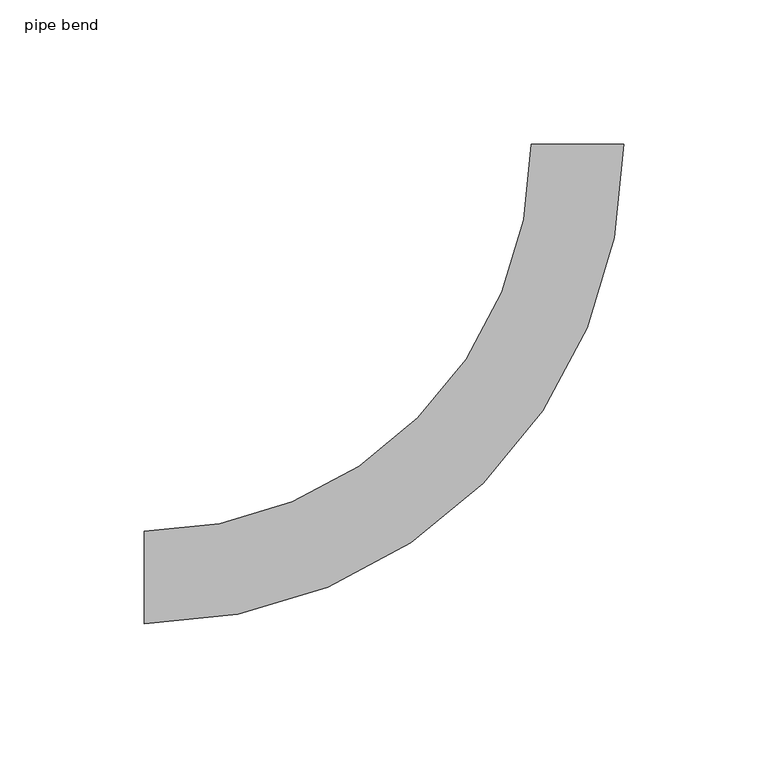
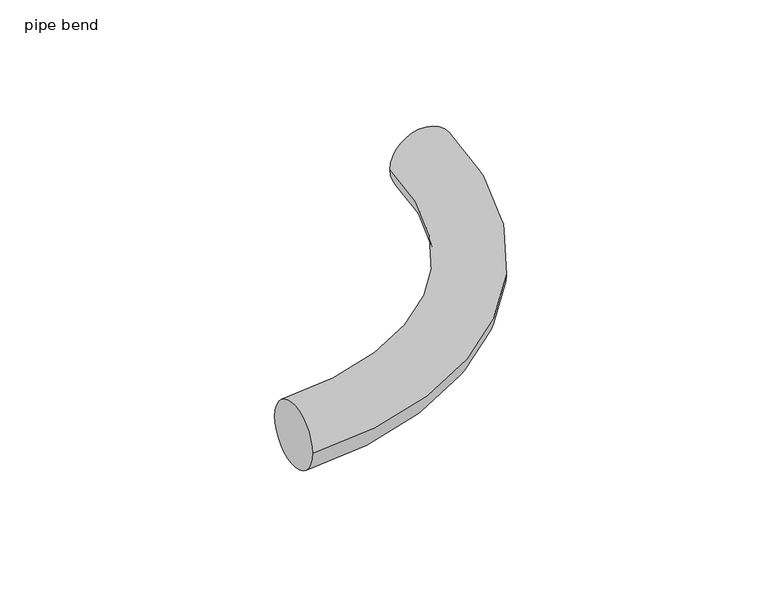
"""IFC4 building model written with IfcOpenShell, lengths in millimetres: pipe fitting geometry, pipe bend : PE-RT EVOH."""

from ifc_helpers import new_model, si_unit, point, frame, origin, place, context, project, spatial, circle_curve, ellipse_curve, trimmed, source, transform, mapped, element, save
from ifc_brep_helpers import plane_surface, revolved_surface, advanced_brep


def pipe_bend_8844c0c0(model_context):
    return source(origin(), model_context, "Body", "AdvancedBrep", [
        advanced_brep(
        [(-150.0, -16.0, 0.0), (-150.0, 16.0, 0.0), (16.0, 150.0, 0.0), (-16.0, 150.0, 0.0)],
        [
            (0, 1, circle_curve(frame((-150.0, 0.0, 0.0), z_axis=(-1.0, 0.0, 0.0), x_axis=(0.0, 1.0, 0.0)), 16.0)),
            (1, 0, circle_curve(frame((-150.0, 0.0, 0.0), z_axis=(-1.0, 0.0, 0.0), x_axis=(0.0, 1.0, 0.0)), 16.0)),
            (2, 3, circle_curve(frame((0.0, 150.0, 0.0), z_axis=(0.0, 1.0, 0.0), x_axis=(-1.0, 0.0, 0.0)), 16.0)),
            (3, 2, circle_curve(frame((0.0, 150.0, 0.0), z_axis=(0.0, 1.0, 0.0), x_axis=(-1.0, 0.0, 0.0)), 16.0)),
            (3, 1, circle_curve(frame((-150.0, 150.0, 0.0), z_axis=(0.0, 0.0, -1.0), x_axis=(0.0, -1.0, 0.0)), 134.0)),
            (0, 2, circle_curve(frame((-150.0, 150.0, 0.0), z_axis=(0.0, 0.0, 1.0), x_axis=(0.0, -1.0, 0.0)), 166.0)),
        ],
        [
            plane_surface(frame((-150.0, 0.0, 0.0), z_axis=(-1.0, 0.0, 0.0), x_axis=(0.0, 0.0, 1.0))),
            plane_surface(frame((0.0, 150.0, 0.0), z_axis=(0.0, 1.0, 0.0), x_axis=(0.0, 0.0, 1.0))),
            revolved_surface(trimmed(ellipse_curve(frame((-150.0, 0.0, 0.0), z_axis=(-1.0, 0.0, 0.0), x_axis=(0.0, 1.0, 0.0)), 16.0, 16.0), [point((-150.0, -16.0, 0.0))], [point((-150.0, 16.0, 0.0))], True, "CARTESIAN"), (-150.0, 150.0, 0.0), (0.0, 0.0, 1.0)),
            revolved_surface(trimmed(ellipse_curve(frame((-150.0, 0.0, 0.0), z_axis=(-1.0, 0.0, 0.0), x_axis=(0.0, 1.0, 0.0)), 16.0, 16.0), [point((-150.0, 16.0, 0.0))], [point((-150.0, -16.0, 0.0))], True, "CARTESIAN"), (-150.0, 150.0, 0.0), (0.0, 0.0, 1.0)),
        ],
        [
            (0, [[1, 2]]),
            (1, [[3, 4]]),
            (2, [[5, -1, 6, -4]]),
            (3, [[-6, -2, -5, -3]]),
        ],
    ),
    ])


if __name__ == "__main__":
    model = new_model("IFC4")
    model_context = context("Model", 3, world=origin())
    ifc_project = project(units=[si_unit("LENGTHUNIT", "METRE", prefix="MILLI")], contexts=[model_context])
    site = spatial("IfcSite", under=ifc_project)
    building = spatial("IfcBuilding", under=site)
    placement = place(None, origin())
    pipe_bend_shape = pipe_bend_8844c0c0(model_context)
    element("IfcPipeFitting", 1, ObjectType="pipe bend : PE-RT EVOH", at=placement, inside=building, context=model_context, shape_type="MappedRepresentation", body=[
        mapped(pipe_bend_shape, transform((0.0, 0.0, 0.0), x_axis=(1.0, 0.0, 0.0), y_axis=(0.0, 1.0, 0.0), z_axis=(0.0, 0.0, 1.0))),
    ])
    save(model, "model.ifc")
